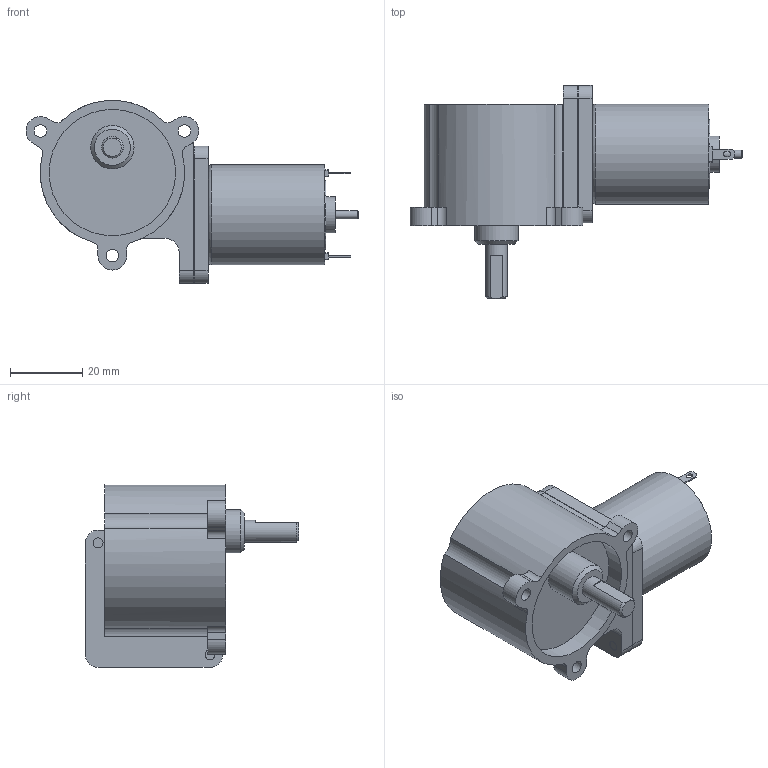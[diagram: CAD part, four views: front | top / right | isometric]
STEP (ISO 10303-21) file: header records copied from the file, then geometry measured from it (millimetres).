
FILE_DESCRIPTION((''),'2;1');
FILE_NAME('C:\Documents and Settings\SSEGAWA\デスクトップ\TP-2732D-KW.STP','2013-07-01T14:43:13',('SSEGAWA'),(''),'Autodesk Inventor 2010','Autodesk Inventor 2010','');
FILE_SCHEMA(('CONFIG_CONTROL_DESIGN'));
Length unit declared in the file: millimetre
Products named in the file (3): tp_2732def_kw; kw; tp_2732d,e,f
Assembly tree (2 placements, depth 2):
  tp_2732def_kw
    kw
    tp_2732d,e,f
Bounding box: 91.92 x 59 x 50.63 mm (x, y, z)
Volume: 71028.2 mm3; surface area: 15816.7 mm2
Topology: 2 solids, 2 shells, 198 faces, 462 edges, 299 vertices
Faces by surface type: plane 110, cylinder 58, bspline 24, torus 4, cone 2
Full cylindrical faces by diameter (mm): 2 x2, 2.305 x2, 2.5 x5, 6 x1, 9 x2, 10 x3, 12 x1, 19 x1, 26.7 x1, 27.7 x1, 35 x1
Entity records: 5657 total; most frequent: CARTESIAN_POINT 1168, DIRECTION 932, ORIENTED_EDGE 834, EDGE_CURVE 417, AXIS2_PLACEMENT_3D 338, VERTEX_POINT 290, EDGE_LOOP 275, VECTOR 256
